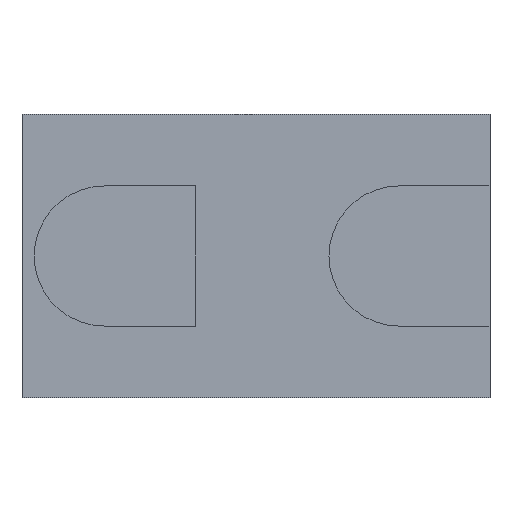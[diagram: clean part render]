
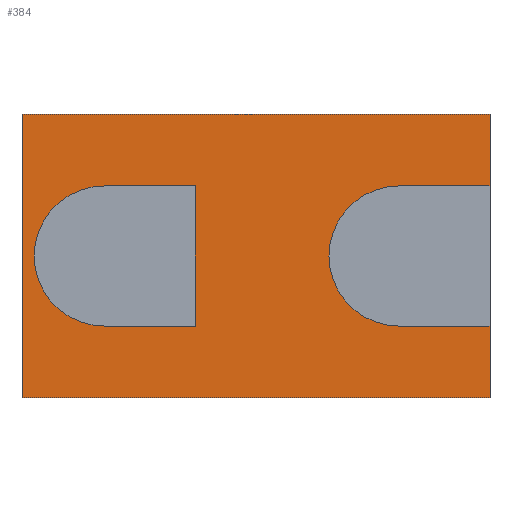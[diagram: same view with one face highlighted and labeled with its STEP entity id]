
A CAD part, front view. The second image highlights one B-rep face of the part: STEP entity #384.
In plain terms, the highlighted planar face has unit normal (0, -1, 0).
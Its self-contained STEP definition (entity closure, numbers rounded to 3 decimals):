
#4 = CIRCLE ( 'NONE', #169, 19. ) ;
#7 = DIRECTION ( 'NONE',  ( 0., 0., 1. ) ) ;
#9 = EDGE_LOOP ( 'NONE', ( #367, #325, #47, #14, #590, #467, #52, #657 ) ) ;
#14 = ORIENTED_EDGE ( 'NONE', *, *, #448, .T. ) ;
#20 = LINE ( 'NONE', #23, #183 ) ;
#23 = CARTESIAN_POINT ( 'NONE',  ( -63., 0., -19. ) ) ;
#37 = DIRECTION ( 'NONE',  ( 0., 0., 1. ) ) ;
#46 = VECTOR ( 'NONE', #37, 1000. ) ;
#47 = ORIENTED_EDGE ( 'NONE', *, *, #143, .T. ) ;
#51 = CARTESIAN_POINT ( 'NONE',  ( -41.7, 0., 0. ) ) ;
#52 = ORIENTED_EDGE ( 'NONE', *, *, #606, .T. ) ;
#56 = LINE ( 'NONE', #305, #475 ) ;
#59 = CARTESIAN_POINT ( 'NONE',  ( 63., 0., -38.5 ) ) ;
#64 = LINE ( 'NONE', #520, #195 ) ;
#72 = LINE ( 'NONE', #376, #339 ) ;
#81 = VERTEX_POINT ( 'NONE', #480 ) ;
#97 = EDGE_CURVE ( 'NONE', #363, #144, #64, .T. ) ;
#113 = CARTESIAN_POINT ( 'NONE',  ( -64., 0., -38.5 ) ) ;
#115 = ORIENTED_EDGE ( 'NONE', *, *, #317, .T. ) ;
#143 = EDGE_CURVE ( 'NONE', #81, #180, #20, .T. ) ;
#144 = VERTEX_POINT ( 'NONE', #425 ) ;
#146 = VECTOR ( 'NONE', #262, 1000. ) ;
#151 = VERTEX_POINT ( 'NONE', #374 ) ;
#164 = DIRECTION ( 'NONE',  ( -1., 0., 0. ) ) ;
#165 = EDGE_CURVE ( 'NONE', #485, #363, #381, .T. ) ;
#169 = AXIS2_PLACEMENT_3D ( 'NONE', #51, #351, #565 ) ;
#170 = CARTESIAN_POINT ( 'NONE',  ( 38.3, 0., 19. ) ) ;
#180 = VERTEX_POINT ( 'NONE', #329 ) ;
#182 = VECTOR ( 'NONE', #533, 1000. ) ;
#183 = VECTOR ( 'NONE', #220, 1000. ) ;
#184 = AXIS2_PLACEMENT_3D ( 'NONE', #532, #269, #482 ) ;
#195 = VECTOR ( 'NONE', #164, 1000. ) ;
#205 = CARTESIAN_POINT ( 'NONE',  ( -63., 0., 19. ) ) ;
#219 = CARTESIAN_POINT ( 'NONE',  ( -17., 0., 19. ) ) ;
#220 = DIRECTION ( 'NONE',  ( -1., 0., 0. ) ) ;
#225 = VECTOR ( 'NONE', #319, 1000. ) ;
#241 = CARTESIAN_POINT ( 'NONE',  ( -17., 0., -19. ) ) ;
#247 = ORIENTED_EDGE ( 'NONE', *, *, #331, .T. ) ;
#256 = CARTESIAN_POINT ( 'NONE',  ( 38.3, 0., 0. ) ) ;
#262 = DIRECTION ( 'NONE',  ( 1., 0., 0. ) ) ;
#263 = VECTOR ( 'NONE', #478, 1000. ) ;
#266 = FACE_OUTER_BOUND ( 'NONE', #9, .T. ) ;
#269 = DIRECTION ( 'NONE',  ( 0., -1., 0. ) ) ;
#277 = EDGE_LOOP ( 'NONE', ( #115, #247, #382, #531 ) ) ;
#280 = VERTEX_POINT ( 'NONE', #601 ) ;
#292 = CARTESIAN_POINT ( 'NONE',  ( 63., 0., 38.5 ) ) ;
#305 = CARTESIAN_POINT ( 'NONE',  ( 63., 0., 38.5 ) ) ;
#317 = EDGE_CURVE ( 'NONE', #144, #151, #4, .T. ) ;
#318 = LINE ( 'NONE', #522, #263 ) ;
#319 = DIRECTION ( 'NONE',  ( 0., 0., -1. ) ) ;
#325 = ORIENTED_EDGE ( 'NONE', *, *, #427, .T. ) ;
#329 = CARTESIAN_POINT ( 'NONE',  ( 38.3, 0., -19. ) ) ;
#331 = EDGE_CURVE ( 'NONE', #151, #485, #463, .T. ) ;
#339 = VECTOR ( 'NONE', #432, 1000. ) ;
#350 = VECTOR ( 'NONE', #409, 1000. ) ;
#351 = DIRECTION ( 'NONE',  ( 0., 1., 0. ) ) ;
#358 = VERTEX_POINT ( 'NONE', #292 ) ;
#363 = VERTEX_POINT ( 'NONE', #241 ) ;
#367 = ORIENTED_EDGE ( 'NONE', *, *, #404, .T. ) ;
#374 = CARTESIAN_POINT ( 'NONE',  ( -41.7, 0., 19. ) ) ;
#376 = CARTESIAN_POINT ( 'NONE',  ( -63., 0., 38.5 ) ) ;
#381 = LINE ( 'NONE', #430, #225 ) ;
#382 = ORIENTED_EDGE ( 'NONE', *, *, #165, .T. ) ;
#384 = ADVANCED_FACE ( 'NONE', ( #266, #537 ), #631, .T. ) ;
#404 = EDGE_CURVE ( 'NONE', #510, #473, #424, .T. ) ;
#409 = DIRECTION ( 'NONE',  ( 1., 0., 0. ) ) ;
#424 = LINE ( 'NONE', #517, #146 ) ;
#425 = CARTESIAN_POINT ( 'NONE',  ( -41.7, 0., -19. ) ) ;
#427 = EDGE_CURVE ( 'NONE', #473, #81, #56, .T. ) ;
#430 = CARTESIAN_POINT ( 'NONE',  ( -17., 0., -38.5 ) ) ;
#432 = DIRECTION ( 'NONE',  ( -1., 0., 0. ) ) ;
#434 = VERTEX_POINT ( 'NONE', #519 ) ;
#436 = EDGE_CURVE ( 'NONE', #593, #280, #318, .T. ) ;
#442 = AXIS2_PLACEMENT_3D ( 'NONE', #256, #483, #469 ) ;
#448 = EDGE_CURVE ( 'NONE', #180, #593, #643, .T. ) ;
#463 = LINE ( 'NONE', #205, #350 ) ;
#467 = ORIENTED_EDGE ( 'NONE', *, *, #630, .T. ) ;
#469 = DIRECTION ( 'NONE',  ( 0., 0., -1. ) ) ;
#473 = VERTEX_POINT ( 'NONE', #59 ) ;
#475 = VECTOR ( 'NONE', #7, 1000. ) ;
#478 = DIRECTION ( 'NONE',  ( 1., 0., 0. ) ) ;
#480 = CARTESIAN_POINT ( 'NONE',  ( 63., 0., -19. ) ) ;
#482 = DIRECTION ( 'NONE',  ( 0., 0., -1. ) ) ;
#483 = DIRECTION ( 'NONE',  ( 0., 1., 0. ) ) ;
#485 = VERTEX_POINT ( 'NONE', #219 ) ;
#498 = LINE ( 'NONE', #636, #46 ) ;
#510 = VERTEX_POINT ( 'NONE', #620 ) ;
#517 = CARTESIAN_POINT ( 'NONE',  ( -63., 0., -38.5 ) ) ;
#519 = CARTESIAN_POINT ( 'NONE',  ( -64., 0., 38.5 ) ) ;
#520 = CARTESIAN_POINT ( 'NONE',  ( -63., 0., -19. ) ) ;
#522 = CARTESIAN_POINT ( 'NONE',  ( -63., 0., 19. ) ) ;
#526 = EDGE_CURVE ( 'NONE', #434, #510, #624, .T. ) ;
#531 = ORIENTED_EDGE ( 'NONE', *, *, #97, .T. ) ;
#532 = CARTESIAN_POINT ( 'NONE',  ( -63., 0., -38.5 ) ) ;
#533 = DIRECTION ( 'NONE',  ( 0., 0., -1. ) ) ;
#537 = FACE_BOUND ( 'NONE', #277, .T. ) ;
#565 = DIRECTION ( 'NONE',  ( 0., 0., -1. ) ) ;
#590 = ORIENTED_EDGE ( 'NONE', *, *, #436, .T. ) ;
#593 = VERTEX_POINT ( 'NONE', #170 ) ;
#601 = CARTESIAN_POINT ( 'NONE',  ( 63., 0., 19. ) ) ;
#606 = EDGE_CURVE ( 'NONE', #358, #434, #72, .T. ) ;
#620 = CARTESIAN_POINT ( 'NONE',  ( -64., 0., -38.5 ) ) ;
#624 = LINE ( 'NONE', #113, #182 ) ;
#630 = EDGE_CURVE ( 'NONE', #280, #358, #498, .T. ) ;
#631 = PLANE ( 'NONE',  #184 ) ;
#636 = CARTESIAN_POINT ( 'NONE',  ( 63., 0., 38.5 ) ) ;
#643 = CIRCLE ( 'NONE', #442, 19. ) ;
#657 = ORIENTED_EDGE ( 'NONE', *, *, #526, .T. ) ;
